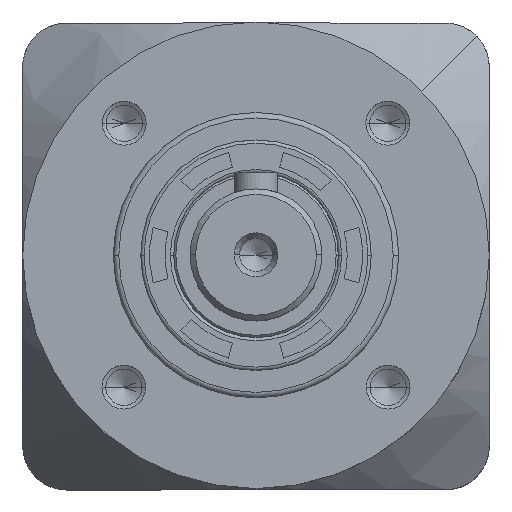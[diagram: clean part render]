
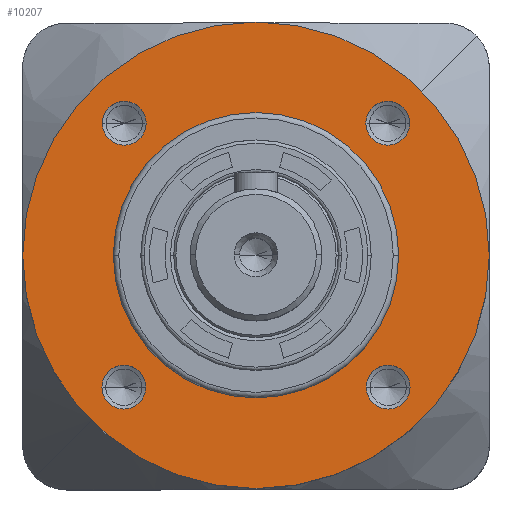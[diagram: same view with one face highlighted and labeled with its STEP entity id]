
A CAD part, top view. The second image highlights one B-rep face of the part: STEP entity #10207.
In plain terms, the highlighted planar face has unit normal (0, 0, 1).
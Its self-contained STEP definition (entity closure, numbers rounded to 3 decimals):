
#50 = EDGE_LOOP ( 'NONE', ( #20570, #22196 ) ) ;
#270 = CARTESIAN_POINT ( 'NONE',  ( 12.008, 12.033, 11.8 ) ) ;
#580 = DIRECTION ( 'NONE',  ( 1., 0., 0. ) ) ;
#745 = CARTESIAN_POINT ( 'NONE',  ( 14.033, -12.008, 11.8 ) ) ;
#1017 = AXIS2_PLACEMENT_3D ( 'NONE', #22381, #16660, #4127 ) ;
#1401 = EDGE_CURVE ( 'NONE', #21754, #2252, #7914, .T. ) ;
#1804 = DIRECTION ( 'NONE',  ( 0., 0., 1. ) ) ;
#1878 = CARTESIAN_POINT ( 'NONE',  ( 0., 0., 11.8 ) ) ;
#1958 = DIRECTION ( 'NONE',  ( 1., 0., 0. ) ) ;
#1989 = DIRECTION ( 'NONE',  ( 0., 0., 1. ) ) ;
#1990 = DIRECTION ( 'NONE',  ( 1., 0., 0. ) ) ;
#2067 = CARTESIAN_POINT ( 'NONE',  ( 12.033, -12.008, 11.8 ) ) ;
#2224 = CIRCLE ( 'NONE', #15997, 2. ) ;
#2252 = VERTEX_POINT ( 'NONE', #17100 ) ;
#2870 = DIRECTION ( 'NONE',  ( 1., 0., 0. ) ) ;
#2962 = VERTEX_POINT ( 'NONE', #13484 ) ;
#3164 = EDGE_LOOP ( 'NONE', ( #9654, #10940 ) ) ;
#3619 = EDGE_CURVE ( 'NONE', #2962, #5876, #12498, .T. ) ;
#3729 = CARTESIAN_POINT ( 'NONE',  ( -12.008, 12.033, 11.8 ) ) ;
#4127 = DIRECTION ( 'NONE',  ( 1., 0., 0. ) ) ;
#4172 = EDGE_CURVE ( 'NONE', #17914, #8679, #14498, .T. ) ;
#4196 = AXIS2_PLACEMENT_3D ( 'NONE', #2067, #1989, #5673 ) ;
#4584 = AXIS2_PLACEMENT_3D ( 'NONE', #20340, #22166, #1990 ) ;
#4818 = ORIENTED_EDGE ( 'NONE', *, *, #4172, .F. ) ;
#5205 = AXIS2_PLACEMENT_3D ( 'NONE', #18846, #15381, #22425 ) ;
#5537 = AXIS2_PLACEMENT_3D ( 'NONE', #23047, #17476, #2870 ) ;
#5546 = ORIENTED_EDGE ( 'NONE', *, *, #11677, .F. ) ;
#5671 = CARTESIAN_POINT ( 'NONE',  ( 13., 0., 11.8 ) ) ;
#5673 = DIRECTION ( 'NONE',  ( 1., 0., 0. ) ) ;
#5865 = DIRECTION ( 'NONE',  ( 0., 0., 1. ) ) ;
#5876 = VERTEX_POINT ( 'NONE', #5671 ) ;
#6031 = EDGE_LOOP ( 'NONE', ( #15120, #11549 ) ) ;
#6204 = CARTESIAN_POINT ( 'NONE',  ( -12.033, -12.008, 11.8 ) ) ;
#6241 = DIRECTION ( 'NONE',  ( 1., 0., 0. ) ) ;
#6444 = DIRECTION ( 'NONE',  ( 0., 0., 1. ) ) ;
#7291 = EDGE_CURVE ( 'NONE', #18349, #21898, #12692, .T. ) ;
#7779 = CARTESIAN_POINT ( 'NONE',  ( -14.008, 12.033, 11.8 ) ) ;
#7801 = EDGE_CURVE ( 'NONE', #22873, #14911, #9816, .T. ) ;
#7914 = CIRCLE ( 'NONE', #16003, 2. ) ;
#8679 = VERTEX_POINT ( 'NONE', #745 ) ;
#9272 = CARTESIAN_POINT ( 'NONE',  ( 10.008, 12.033, 11.8 ) ) ;
#9450 = CIRCLE ( 'NONE', #5205, 2. ) ;
#9654 = ORIENTED_EDGE ( 'NONE', *, *, #3619, .F. ) ;
#9816 = CIRCLE ( 'NONE', #16213, 2. ) ;
#9889 = DIRECTION ( 'NONE',  ( 0., 0., 1. ) ) ;
#10062 = DIRECTION ( 'NONE',  ( 1., 0., 0. ) ) ;
#10207 = ADVANCED_FACE ( 'NONE', ( #16679, #21500, #18085, #21210, #23515, #20380 ), #13094, .T. ) ;
#10940 = ORIENTED_EDGE ( 'NONE', *, *, #23168, .F. ) ;
#10982 = CARTESIAN_POINT ( 'NONE',  ( -10.008, 12.033, 11.8 ) ) ;
#11258 = AXIS2_PLACEMENT_3D ( 'NONE', #19146, #6444, #10062 ) ;
#11549 = ORIENTED_EDGE ( 'NONE', *, *, #7291, .T. ) ;
#11677 = EDGE_CURVE ( 'NONE', #8679, #17914, #15784, .T. ) ;
#11720 = CIRCLE ( 'NONE', #5537, 21.25 ) ;
#12108 = EDGE_CURVE ( 'NONE', #2252, #21754, #16382, .T. ) ;
#12498 = CIRCLE ( 'NONE', #11258, 13. ) ;
#12590 = EDGE_LOOP ( 'NONE', ( #5546, #4818 ) ) ;
#12692 = CIRCLE ( 'NONE', #1017, 21.25 ) ;
#12854 = EDGE_CURVE ( 'NONE', #14911, #22873, #9450, .T. ) ;
#13025 = AXIS2_PLACEMENT_3D ( 'NONE', #1878, #21972, #14627 ) ;
#13094 = PLANE ( 'NONE',  #13025 ) ;
#13484 = CARTESIAN_POINT ( 'NONE',  ( -13., 0., 11.8 ) ) ;
#14114 = ORIENTED_EDGE ( 'NONE', *, *, #12108, .F. ) ;
#14155 = CARTESIAN_POINT ( 'NONE',  ( 12.033, -12.008, 11.8 ) ) ;
#14317 = DIRECTION ( 'NONE',  ( 1., 0., 0. ) ) ;
#14498 = CIRCLE ( 'NONE', #4196, 2. ) ;
#14627 = DIRECTION ( 'NONE',  ( 1., 0., 0. ) ) ;
#14766 = CIRCLE ( 'NONE', #15663, 2. ) ;
#14911 = VERTEX_POINT ( 'NONE', #7779 ) ;
#14921 = EDGE_CURVE ( 'NONE', #21898, #18349, #11720, .T. ) ;
#15078 = ORIENTED_EDGE ( 'NONE', *, *, #1401, .F. ) ;
#15120 = ORIENTED_EDGE ( 'NONE', *, *, #14921, .T. ) ;
#15350 = DIRECTION ( 'NONE',  ( 1., 0., 0. ) ) ;
#15381 = DIRECTION ( 'NONE',  ( 0., 0., 1. ) ) ;
#15625 = CARTESIAN_POINT ( 'NONE',  ( 0., 0., 11.8 ) ) ;
#15663 = AXIS2_PLACEMENT_3D ( 'NONE', #270, #5865, #580 ) ;
#15784 = CIRCLE ( 'NONE', #19036, 2. ) ;
#15997 = AXIS2_PLACEMENT_3D ( 'NONE', #17530, #21582, #14317 ) ;
#16003 = AXIS2_PLACEMENT_3D ( 'NONE', #6204, #9889, #15350 ) ;
#16213 = AXIS2_PLACEMENT_3D ( 'NONE', #3729, #1804, #1958 ) ;
#16369 = ORIENTED_EDGE ( 'NONE', *, *, #16752, .F. ) ;
#16382 = CIRCLE ( 'NONE', #4584, 2. ) ;
#16494 = CARTESIAN_POINT ( 'NONE',  ( -21.25, 0., 11.8 ) ) ;
#16568 = ORIENTED_EDGE ( 'NONE', *, *, #22993, .F. ) ;
#16660 = DIRECTION ( 'NONE',  ( 0., 0., 1. ) ) ;
#16679 = FACE_BOUND ( 'NONE', #19736, .T. ) ;
#16752 = EDGE_CURVE ( 'NONE', #21679, #18565, #2224, .T. ) ;
#17100 = CARTESIAN_POINT ( 'NONE',  ( -10.033, -12.008, 11.8 ) ) ;
#17360 = AXIS2_PLACEMENT_3D ( 'NONE', #15625, #20910, #6241 ) ;
#17476 = DIRECTION ( 'NONE',  ( 0., 0., 1. ) ) ;
#17530 = CARTESIAN_POINT ( 'NONE',  ( 12.008, 12.033, 11.8 ) ) ;
#17914 = VERTEX_POINT ( 'NONE', #20737 ) ;
#18085 = FACE_BOUND ( 'NONE', #18593, .T. ) ;
#18349 = VERTEX_POINT ( 'NONE', #16494 ) ;
#18565 = VERTEX_POINT ( 'NONE', #20862 ) ;
#18593 = EDGE_LOOP ( 'NONE', ( #14114, #15078 ) ) ;
#18846 = CARTESIAN_POINT ( 'NONE',  ( -12.008, 12.033, 11.8 ) ) ;
#19036 = AXIS2_PLACEMENT_3D ( 'NONE', #14155, #19528, #21346 ) ;
#19146 = CARTESIAN_POINT ( 'NONE',  ( 0., 0., 11.8 ) ) ;
#19528 = DIRECTION ( 'NONE',  ( 0., 0., 1. ) ) ;
#19736 = EDGE_LOOP ( 'NONE', ( #16568, #16369 ) ) ;
#20267 = CARTESIAN_POINT ( 'NONE',  ( -14.033, -12.008, 11.8 ) ) ;
#20340 = CARTESIAN_POINT ( 'NONE',  ( -12.033, -12.008, 11.8 ) ) ;
#20380 = FACE_OUTER_BOUND ( 'NONE', #6031, .T. ) ;
#20570 = ORIENTED_EDGE ( 'NONE', *, *, #7801, .F. ) ;
#20737 = CARTESIAN_POINT ( 'NONE',  ( 10.033, -12.008, 11.8 ) ) ;
#20862 = CARTESIAN_POINT ( 'NONE',  ( 14.008, 12.033, 11.8 ) ) ;
#20910 = DIRECTION ( 'NONE',  ( 0., 0., 1. ) ) ;
#21210 = FACE_BOUND ( 'NONE', #12590, .T. ) ;
#21346 = DIRECTION ( 'NONE',  ( 1., 0., 0. ) ) ;
#21500 = FACE_BOUND ( 'NONE', #50, .T. ) ;
#21582 = DIRECTION ( 'NONE',  ( 0., 0., 1. ) ) ;
#21679 = VERTEX_POINT ( 'NONE', #9272 ) ;
#21754 = VERTEX_POINT ( 'NONE', #20267 ) ;
#21898 = VERTEX_POINT ( 'NONE', #23009 ) ;
#21909 = CIRCLE ( 'NONE', #17360, 13. ) ;
#21972 = DIRECTION ( 'NONE',  ( 0., 0., 1. ) ) ;
#22166 = DIRECTION ( 'NONE',  ( 0., 0., 1. ) ) ;
#22196 = ORIENTED_EDGE ( 'NONE', *, *, #12854, .F. ) ;
#22381 = CARTESIAN_POINT ( 'NONE',  ( 0., 0., 11.8 ) ) ;
#22425 = DIRECTION ( 'NONE',  ( 1., 0., 0. ) ) ;
#22873 = VERTEX_POINT ( 'NONE', #10982 ) ;
#22993 = EDGE_CURVE ( 'NONE', #18565, #21679, #14766, .T. ) ;
#23009 = CARTESIAN_POINT ( 'NONE',  ( 21.25, 0., 11.8 ) ) ;
#23047 = CARTESIAN_POINT ( 'NONE',  ( 0., 0., 11.8 ) ) ;
#23168 = EDGE_CURVE ( 'NONE', #5876, #2962, #21909, .T. ) ;
#23515 = FACE_BOUND ( 'NONE', #3164, .T. ) ;
